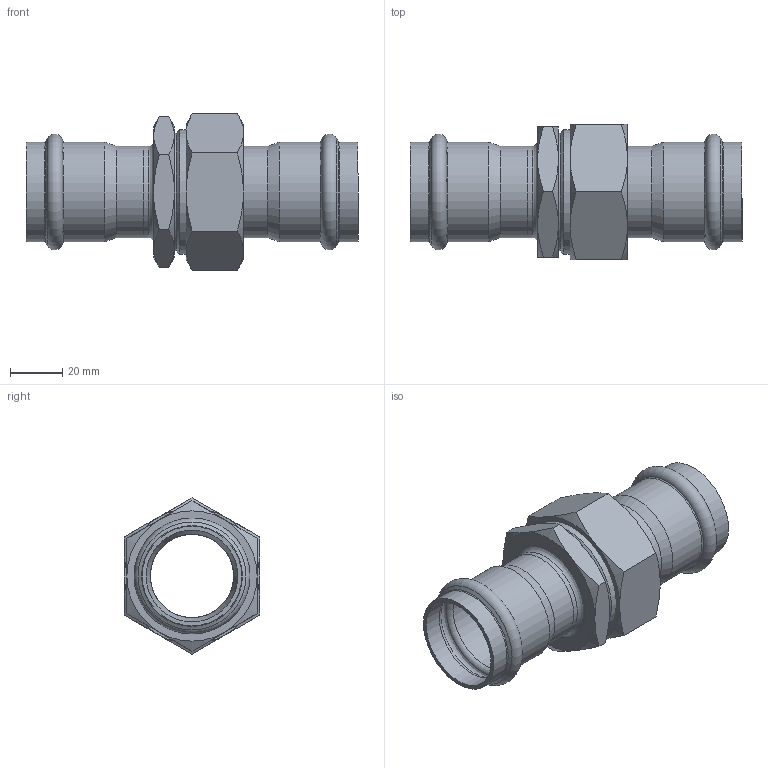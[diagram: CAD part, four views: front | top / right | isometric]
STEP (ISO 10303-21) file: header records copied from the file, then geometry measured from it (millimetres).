
FILE_DESCRIPTION((''),'2;1');
FILE_NAME('G:\Nirosan-Schmiedefeld\Technics\CAD\Bauteile VA\035\6933035(2).stp','2011-10-26T16:30:27',('herberg'),(''),'Autodesk Inventor 2009','Autodesk Inventor 2009','');
FILE_SCHEMA(('AUTOMOTIVE_DESIGN { 1 0 10303 214 1 1 1 1 }'));
Length unit declared in the file: millimetre
Products named in the file (8): 6933035(2); 69359AG35112(0); HM_6924335(1); 359AG35112(2); 69359m35112(2); R35112(1); SM35112(3); FD_4432_EPDM(0)
Assembly tree (8 placements, depth 3):
  6933035(2)
    69359AG35112(0)
      HM_6924335(1)
      359AG35112(2)
    69359m35112(2)
      HM_6924335(1)
      R35112(1)
      SM35112(3)
      FD_4432_EPDM(0)
Bounding box: 127.5 x 52 x 60.04 mm (x, y, z)
Volume: 61930.8 mm3; surface area: 46532.2 mm2
Topology: 6 solids, 6 shells, 102 faces, 200 edges, 114 vertices
Faces by surface type: cone 36, plane 27, cylinder 21, bspline 11, torus 7
Full cylindrical faces by diameter (mm): 32 x5, 35 x4, 35.25 x4, 36 x1, 38.25 x4, 43 x1, 44 x1, 47.803 x1
Entity records: 2420 total; most frequent: CARTESIAN_POINT 713, DIRECTION 336, ORIENTED_EDGE 260, AXIS2_PLACEMENT_3D 162, EDGE_LOOP 132, EDGE_CURVE 130, VERTEX_POINT 94, FACE_OUTER_BOUND 84
